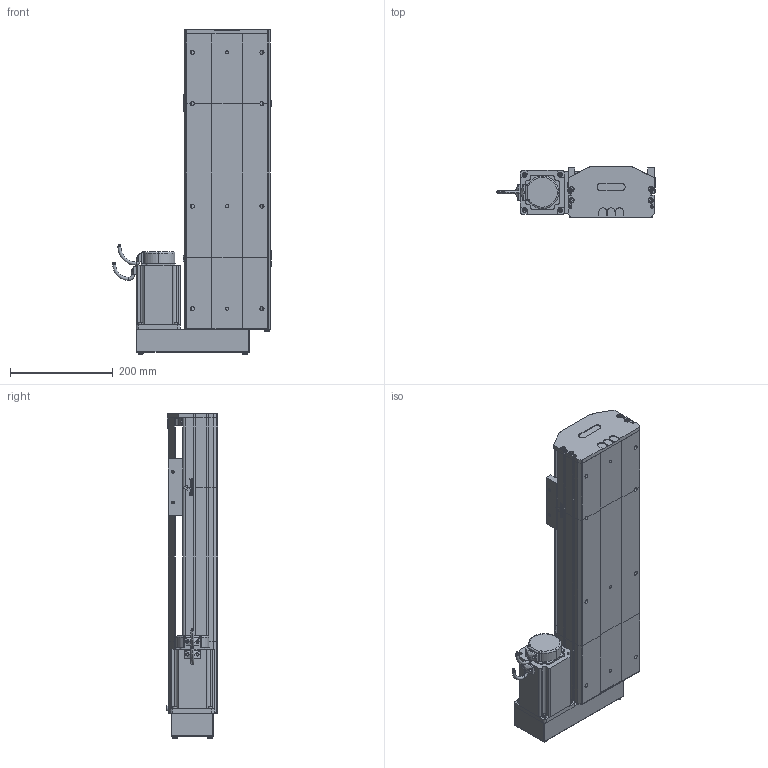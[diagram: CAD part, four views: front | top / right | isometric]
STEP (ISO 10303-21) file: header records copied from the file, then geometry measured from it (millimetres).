
FILE_DESCRIPTION (( 'STEP AP214' ), '1' );
FILE_NAME ('D17 TSN BR S300.STEP', '2010-06-30T07:29:25', ( 'Christophe Gaillard' ), ( 'SGA' ), 'SwSTEP 2.0', 'SolidWorks 2010', '' );
FILE_SCHEMA (( 'AUTOMOTIVE_DESIGN' ));
Length unit declared in the file: millimetre
Products named in the file (33): Chariot D17 TBN; chariot D17 TSN; Cvis M5 L70_Default; guide D17; vis M5 L12_Default; renvoi BR_Default; Vis M5 L16-2_Default; Conecteur_Default; Conecteur2_Default; codeur 90BLDC125-640; vis M5 L5_Default; Moteur motionking 90BLDC125A-640; corps 90BLDC125A-640; avant 90BLDC125A-640; arbre + rail D17 Course 300 ; course 300 D17_Default; D17 TSN BR S300; Tail D17+L100_Default; couvercle D17 course L300_Default; corp D17 300_Default; tete d''axe bas D17; plaque de  bout tail D17_Default; corpl tail D17+L100_Default; couvercle D17_Default; Arbre+rail tail D17; tete d''axe haut D17; corpl head D17 BM_Default; head BR_Default; vis M5 L25_Default; vis M5 L8 90°_Default; Arbre+rail head D17; plaque de  bout BM head D17_Default; couvercle D17 head_Default
Assembly tree (51 placements, depth 4):
  D17 TSN BR S300
    head BR_Default
      vis M5 L5_Default  x2
      Arbre+rail head D17
      vis M5 L12_Default  x8
      corpl head D17 BM_Default
      Vis M5 L16-2_Default  x4
      plaque de  bout BM head D17_Default
      Cvis M5 L70_Default  x2
      couvercle D17 head_Default
      Moteur motionking 90BLDC125A-640
        corps 90BLDC125A-640
        Conecteur_Default
        avant 90BLDC125A-640
        codeur 90BLDC125-640
        Conecteur2_Default
      renvoi BR_Default
    Tail D17+L100_Default
      couvercle D17_Default
      Arbre+rail tail D17
      vis M5 L25_Default  x2
      tete d''axe haut D17
      vis M5 L8 90°_Default  x2
      corpl tail D17+L100_Default
      vis M5 L12_Default  x4
      tete d''axe bas D17
      plaque de  bout tail D17_Default
    course 300 D17_Default
      corp D17 300_Default
      arbre + rail D17 Course 300 
      couvercle D17 course L300_Default
    chariot D17 TSN
      guide D17  x2
      Chariot D17 TBN
Bounding box: 308.95 x 99.7 x 632.7 mm (x, y, z)
Volume: 5010318.2 mm3; surface area: 1219639.9 mm2
Topology: 75 solids, 75 shells, 2105 faces, 5307 edges, 3432 vertices
Faces by surface type: plane 1326, cylinder 518, bspline 136, torus 65, cone 56, sphere 4
Entity records: 70336 total; most frequent: CARTESIAN_POINT 22332, ORIENTED_EDGE 8522, DIRECTION 7946, EDGE_CURVE 4261, VECTOR 3002, LINE 3002, VERTEX_POINT 2798, AXIS2_PLACEMENT_3D 2472
